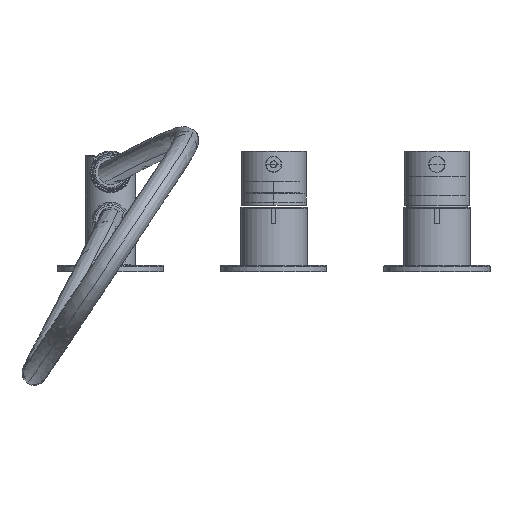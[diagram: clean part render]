
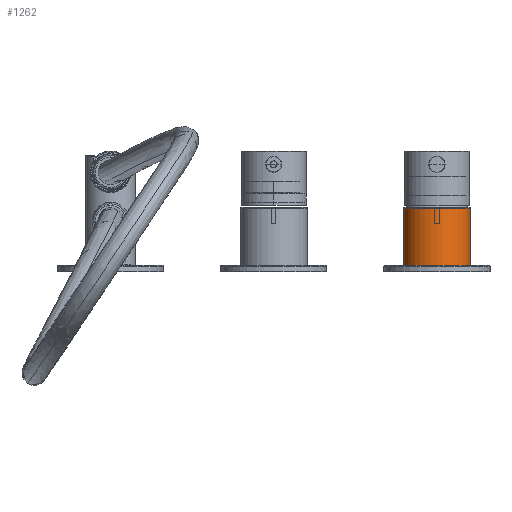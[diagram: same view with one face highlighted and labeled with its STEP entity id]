
A CAD part, front view. The second image highlights one B-rep face of the part: STEP entity #1262.
In plain terms, the highlighted cylindrical face has radius 20.5 mm (diameter 41 mm), a partial arc.
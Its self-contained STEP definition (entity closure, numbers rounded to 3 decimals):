
#93=CARTESIAN_POINT('',(200.,0.,39.));
#94=DIRECTION('',(0.,0.,-1.));
#95=DIRECTION('',(1.,0.,0.));
#96=AXIS2_PLACEMENT_3D('',#93,#94,#95);
#108=DIRECTION('',(0.,0.,-1.));
#109=VECTOR('',#108,37.);
#110=CARTESIAN_POINT('',(179.5,0.,39.));
#111=LINE('',#110,#109);
#122=CARTESIAN_POINT('',(200.,0.,2.));
#123=DIRECTION('',(0.,0.,1.));
#124=DIRECTION('',(-1.,0.,0.));
#125=AXIS2_PLACEMENT_3D('',#122,#123,#124);
#266=DIRECTION('',(0.,0.,-1.));
#267=VECTOR('',#266,37.);
#268=CARTESIAN_POINT('',(220.5,0.,39.));
#269=LINE('',#268,#267);
#644=CARTESIAN_POINT('',(179.5,0.,2.));
#645=CARTESIAN_POINT('',(220.5,0.,2.));
#646=VERTEX_POINT('',#644);
#647=VERTEX_POINT('',#645);
#648=CARTESIAN_POINT('',(179.5,0.,39.));
#649=VERTEX_POINT('',#648);
#650=CARTESIAN_POINT('',(220.5,0.,39.));
#651=VERTEX_POINT('',#650);
#1251=CARTESIAN_POINT('',(200.,0.,39.5));
#1252=DIRECTION('',(0.,0.,1.));
#1253=DIRECTION('',(-1.,0.,0.));
#1254=AXIS2_PLACEMENT_3D('',#1251,#1252,#1253);
#1255=CYLINDRICAL_SURFACE('',#1254,20.5);
#1256=ORIENTED_EDGE('',*,*,#960,.F.);
#1257=ORIENTED_EDGE('',*,*,#937,.F.);
#1258=ORIENTED_EDGE('',*,*,#892,.F.);
#1259=ORIENTED_EDGE('',*,*,#934,.T.);
#1260=EDGE_LOOP('',(#1256,#1257,#1258,#1259));
#1261=FACE_OUTER_BOUND('',#1260,.F.);
#97=CIRCLE('',#96,20.5);
#126=CIRCLE('',#125,20.5);
#892=EDGE_CURVE('',#651,#649,#97,.T.);
#934=EDGE_CURVE('',#651,#647,#269,.T.);
#937=EDGE_CURVE('',#649,#646,#111,.T.);
#960=EDGE_CURVE('',#646,#647,#126,.T.);
#1262=ADVANCED_FACE('',(#1261),#1255,.T.);
